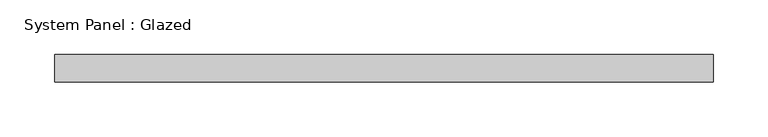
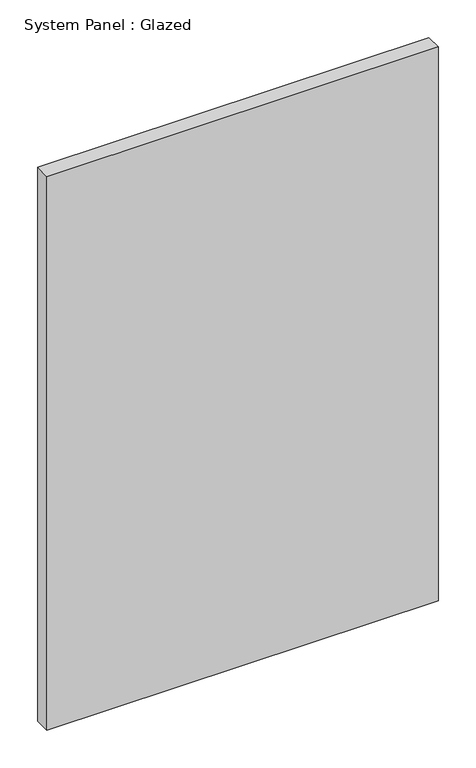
"""IFC4 building model written with IfcOpenShell, lengths in millimetres: plate geometry, System Panel : Glazed."""

from ifc_helpers import new_model, si_unit, origin, origin_with_axes, place, context, project, spatial, polyline, outline, extrude, source, transform, mapped, element, save


def system_panel_glazed_212870f7(model_context):
    return source(origin(), model_context, "Body", "SweptSolid", [
        extrude(outline(polyline([(300.75, -49.5), (-300.75, -49.5), (-300.75, -24.5), (300.75, -24.5), (300.75, -49.5)])), origin_with_axes(), (0.0, 0.0, 1.0), 900.0),
    ])


if __name__ == "__main__":
    model = new_model("IFC4")
    model_context = context("Model", 3, world=origin())
    ifc_project = project(units=[si_unit("LENGTHUNIT", "METRE", prefix="MILLI")], contexts=[model_context])
    site = spatial("IfcSite", under=ifc_project)
    building = spatial("IfcBuilding", under=site)
    placement = place(None, origin())
    system_panel_glazed_shape = system_panel_glazed_212870f7(model_context)
    element("IfcPlate", 1, ObjectType="System Panel : Glazed", at=placement, inside=building, context=model_context, shape_type="MappedRepresentation", body=[
        mapped(system_panel_glazed_shape, transform((0.0, 0.0, 0.0), x_axis=(1.0, 0.0, 0.0), y_axis=(0.0, 1.0, 0.0), z_axis=(0.0, 0.0, 1.0))),
    ])
    save(model, "model.ifc")
